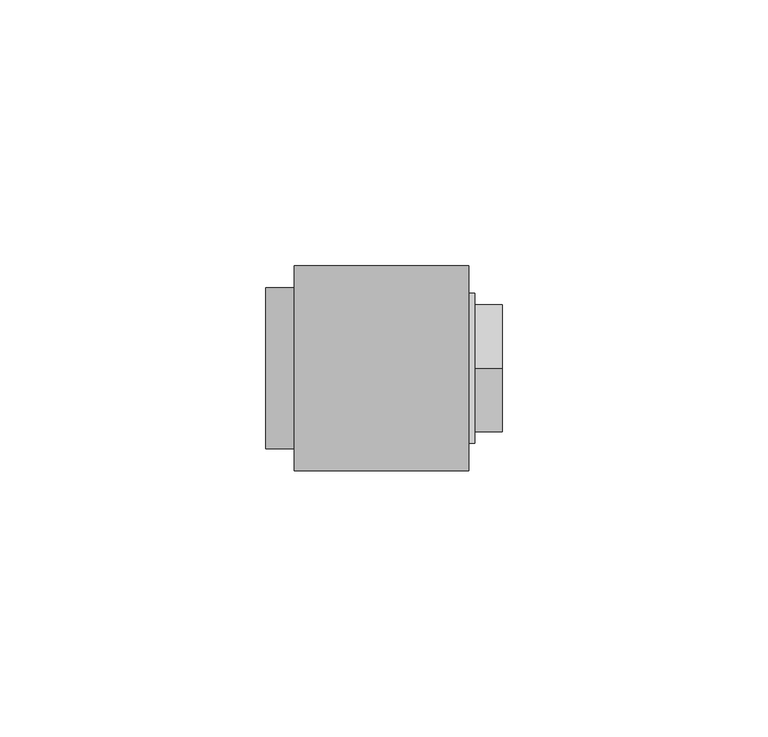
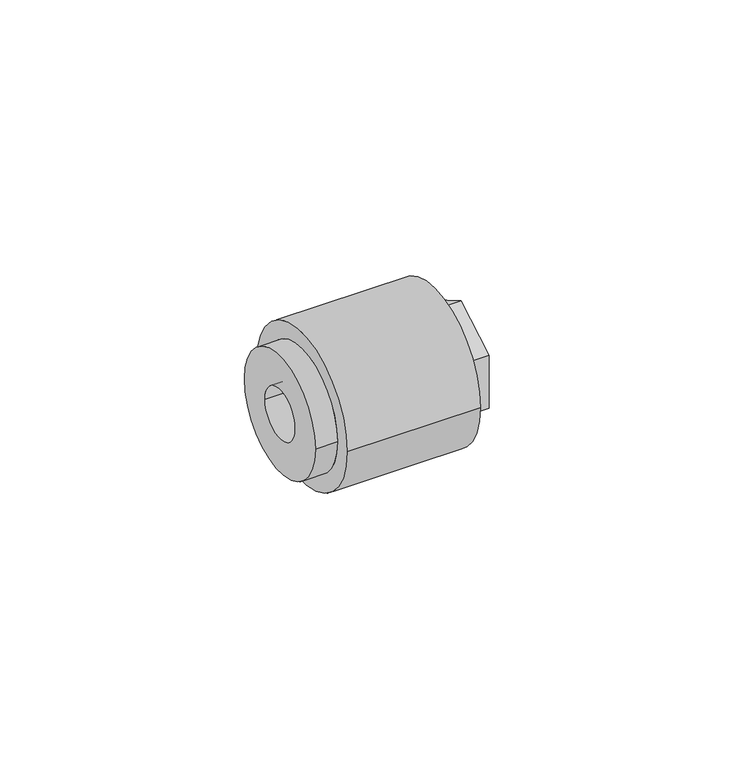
"""IFC4 building model written with IfcOpenShell, lengths in millimetres: pipe fitting geometry, Aquatherm - Fusion Outlet Transition Female : POTABLE BRASS - HEX."""

from ifc_helpers import new_model, si_unit, frame, origin, place, context, project, spatial, polyline, circle_curve, source, transform, mapped, element, save
from ifc_brep_helpers import plane_surface, cylinder_surface, revolved_surface, advanced_brep


def pipe_fitting_25588f07(model_context):
    return source(origin(), model_context, "Body", "AdvancedBrep", [
        advanced_brep(
        [(26.416, 9.525, 0.0), (26.416, -9.525, 0.0), (36.5363125, -9.525, 0.0), (36.5363125, 9.525, 0.0), (26.416, 10.31875, 0.0), (26.416, -10.31875, 0.0), (23.241, 10.31875, 0.0), (23.241, -10.31875, 0.0), (23.241, 6.35, 0.0), (23.241, -6.35, 0.0), (20.066, 6.35, 0.0), (20.066, -6.35, 0.0), (20.066, 15.113, 0.0), (20.066, -15.113, 0.0), (32.766, 15.113, 0.0), (32.766, -15.113, 0.0), (39.116, 10.31875, 0.0), (39.116, -10.31875, 0.0), (39.116, -11.938, 0.0), (39.116, -11.938, -6.8924075), (39.116, 0.0, -13.784815), (39.116, 11.938, -6.8924075), (39.116, 11.938, 0.0), (39.116, 11.938, 6.8924075), (39.116, 0.0, 13.784815), (39.116, -11.938, 6.8924075), (32.766, 14.097, 0.0), (32.766, -14.097, 0.0), (33.956625, 14.097, 0.0), (33.956625, -14.097, 0.0), (33.956625, 0.0, -13.784815), (33.956625, -11.938, -6.8924075), (33.956625, -11.938, 6.8924075), (33.956625, 0.0, 13.784815), (33.956625, 11.938, 6.8924075), (33.956625, 11.938, -6.8924075)],
        [
            (0, 1, circle_curve(frame((26.416, 0.0, 0.0), z_axis=(-1.0, 0.0, 0.0), x_axis=(0.0, -1.0, 0.0)), 9.525)),
            (1, 2),
            (2, 3, circle_curve(frame((36.5363125, 0.0, 0.0), z_axis=(1.0, 0.0, 0.0), x_axis=(0.0, -1.0, 0.0)), 9.525)),
            (3, 0),
            (1, 0, circle_curve(frame((26.416, 0.0, 0.0), z_axis=(-1.0, 0.0, 0.0), x_axis=(0.0, -1.0, 0.0)), 9.525)),
            (3, 2, circle_curve(frame((36.5363125, 0.0, 0.0), z_axis=(1.0, 0.0, 0.0), x_axis=(0.0, -1.0, 0.0)), 9.525)),
            (0, 4),
            (4, 5, circle_curve(frame((26.416, 0.0, 0.0), z_axis=(-1.0, 0.0, 0.0), x_axis=(0.0, -1.0, 0.0)), 10.31875)),
            (5, 1),
            (5, 4, circle_curve(frame((26.416, 0.0, 0.0), z_axis=(-1.0, 0.0, 0.0), x_axis=(0.0, -1.0, 0.0)), 10.31875)),
            (4, 6),
            (6, 7, circle_curve(frame((23.241, 0.0, 0.0), z_axis=(-1.0, 0.0, 0.0), x_axis=(0.0, -1.0, 0.0)), 10.31875)),
            (7, 5),
            (7, 6, circle_curve(frame((23.241, 0.0, 0.0), z_axis=(-1.0, 0.0, 0.0), x_axis=(0.0, -1.0, 0.0)), 10.31875)),
            (6, 8),
            (8, 9, circle_curve(frame((23.241, 0.0, 0.0), z_axis=(-1.0, 0.0, 0.0), x_axis=(0.0, -1.0, 0.0)), 6.35)),
            (9, 7),
            (9, 8, circle_curve(frame((23.241, 0.0, 0.0), z_axis=(-1.0, 0.0, 0.0), x_axis=(0.0, -1.0, 0.0)), 6.35)),
            (8, 10),
            (10, 11, circle_curve(frame((20.066, 0.0, 0.0), z_axis=(-1.0, 0.0, 0.0), x_axis=(0.0, -1.0, 0.0)), 6.35)),
            (11, 9),
            (11, 10, circle_curve(frame((20.066, 0.0, 0.0), z_axis=(-1.0, 0.0, 0.0), x_axis=(0.0, -1.0, 0.0)), 6.35)),
            (10, 12),
            (12, 13, circle_curve(frame((20.066, 0.0, 0.0), z_axis=(-1.0, 0.0, 0.0), x_axis=(0.0, -1.0, 0.0)), 15.113)),
            (13, 11),
            (13, 12, circle_curve(frame((20.066, 0.0, 0.0), z_axis=(-1.0, 0.0, 0.0), x_axis=(0.0, -1.0, 0.0)), 15.113)),
            (12, 14),
            (14, 15, circle_curve(frame((32.766, 0.0, 0.0), z_axis=(-1.0, 0.0, 0.0), x_axis=(0.0, -1.0, 0.0)), 15.113)),
            (15, 13),
            (15, 14, circle_curve(frame((32.766, 0.0, 0.0), z_axis=(-1.0, 0.0, 0.0), x_axis=(0.0, -1.0, 0.0)), 15.113)),
            (16, 17, circle_curve(frame((39.116, 0.0, 0.0), z_axis=(-1.0, 0.0, 0.0), x_axis=(0.0, -1.0, 0.0)), 10.31875)),
            (17, 18),
            (18, 19),
            (19, 20),
            (20, 21),
            (21, 22),
            (22, 16),
            (17, 16, circle_curve(frame((39.116, 0.0, 0.0), z_axis=(-1.0, 0.0, 0.0), x_axis=(0.0, -1.0, 0.0)), 10.31875)),
            (22, 23),
            (23, 24),
            (24, 25),
            (25, 18),
            (2, 17),
            (16, 3),
            (14, 26),
            (26, 27, circle_curve(frame((32.766, 0.0, 0.0), z_axis=(-1.0, 0.0, 0.0), x_axis=(0.0, -1.0, 0.0)), 14.097)),
            (27, 15),
            (27, 26, circle_curve(frame((32.766, 0.0, 0.0), z_axis=(-1.0, 0.0, 0.0), x_axis=(0.0, -1.0, 0.0)), 14.097)),
            (26, 28),
            (28, 29, circle_curve(frame((33.956625, 0.0, 0.0), z_axis=(-1.0, 0.0, 0.0), x_axis=(0.0, -1.0, 0.0)), 14.097)),
            (29, 27),
            (29, 28, circle_curve(frame((33.956625, 0.0, 0.0), z_axis=(-1.0, 0.0, 0.0), x_axis=(0.0, -1.0, 0.0)), 14.097)),
            (30, 31),
            (31, 32),
            (32, 33),
            (33, 34),
            (34, 35),
            (35, 30),
            (35, 21),
            (20, 30),
            (34, 23),
            (33, 24),
            (32, 25),
            (31, 19),
        ],
        [
            revolved_surface(polyline([(36.5363125, -9.525, 0.0), (26.416, -9.525, 0.0)]), (40.9492251, 0.0, 0.0), (1.0, 0.0, 0.0)),
            plane_surface(frame((26.416, 0.0, 0.0), z_axis=(-1.0, 0.0, 0.0), x_axis=(0.0, -1.0, 0.0))),
            revolved_surface(polyline([(26.416, -10.31875, 0.0), (23.241, -10.31875, 0.0)]), (40.9492251, 0.0, 0.0), (1.0, 0.0, 0.0)),
            plane_surface(frame((23.241, 0.0, 0.0), z_axis=(1.0, 0.0, 0.0), x_axis=(0.0, -1.0, 0.0))),
            revolved_surface(polyline([(23.241, -6.35, 0.0), (20.066, -6.35, 0.0)]), (40.9492251, 0.0, 0.0), (1.0, 0.0, 0.0)),
            plane_surface(frame((20.066, 0.0, 0.0), z_axis=(-1.0, 0.0, 0.0), x_axis=(0.0, -1.0, 0.0))),
            cylinder_surface(frame((40.9492251, 0.0, 0.0), z_axis=(1.0, 0.0, 0.0), x_axis=(0.0, -1.0, 0.0)), 15.113),
            plane_surface(frame((39.116, 0.0, 0.0), z_axis=(1.0, 0.0, 0.0), x_axis=(0.0, -1.0, 0.0))),
            revolved_surface(polyline([(39.116, -10.31875, 0.0), (36.5363125, -9.525, 0.0)]), (40.9492251, 0.0, 0.0), (1.0, 0.0, 0.0)),
            plane_surface(frame((32.766, 0.0, 0.0), z_axis=(1.0, 0.0, 0.0), x_axis=(0.0, -1.0, 0.0))),
            cylinder_surface(frame((40.9492251, 0.0, 0.0), z_axis=(1.0, 0.0, 0.0), x_axis=(0.0, -1.0, 0.0)), 14.097),
            plane_surface(frame((33.956625, 11.938, -6.8924075), z_axis=(1.0, 0.0, 0.0), x_axis=(0.0, 0.8660254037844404, 0.49999999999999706))),
            plane_surface(frame((33.956625, 0.0, -13.784815), z_axis=(0.0, 0.49999999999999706, -0.8660254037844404), x_axis=(1.0, 0.0, 0.0))),
            plane_surface(frame((33.956625, 11.938, -6.8924075), z_axis=(0.0, 1.0, 0.0), x_axis=(1.0, 0.0, 0.0))),
            plane_surface(frame((33.956625, 11.938, 6.8924075), z_axis=(0.0, 0.5000000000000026, 0.8660254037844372), x_axis=(1.0, 0.0, 0.0))),
            plane_surface(frame((33.956625, 0.0, 13.784815), z_axis=(0.0, -0.4999999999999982, 0.8660254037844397), x_axis=(1.0, 0.0, 0.0))),
            plane_surface(frame((33.956625, -11.938, 6.8924075), z_axis=(0.0, -1.0, 0.0), x_axis=(1.0, 0.0, 0.0))),
            plane_surface(frame((33.956625, -11.938, -6.8924075), z_axis=(0.0, -0.5000000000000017, -0.8660254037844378), x_axis=(1.0, 0.0, 0.0))),
        ],
        [
            (0, [[1, 2, 3, 4]]),
            (0, [[-2, 5, -4, 6]]),
            (1, [[-1, 7, 8, 9]]),
            (1, [[-5, -9, 10, -7]]),
            (2, [[-8, 11, 12, 13]]),
            (2, [[-10, -13, 14, -11]]),
            (3, [[-12, 15, 16, 17]]),
            (3, [[-14, -17, 18, -15]]),
            (4, [[-16, 19, 20, 21]]),
            (4, [[-18, -21, 22, -19]]),
            (5, [[-20, 23, 24, 25]]),
            (5, [[-22, -25, 26, -23]]),
            (6, [[-24, 27, 28, 29]]),
            (6, [[-26, -29, 30, -27]]),
            (7, [[31, 32, 33, 34, 35, 36, 37]]),
            (7, [[38, -37, 39, 40, 41, 42, -32]]),
            (8, [[-3, 43, -31, 44]]),
            (8, [[-6, -44, -38, -43]]),
            (9, [[-28, 45, 46, 47]]),
            (9, [[-30, -47, 48, -45]]),
            (10, [[-46, 49, 50, 51]]),
            (10, [[-48, -51, 52, -49]]),
            (11, [[-50, -52], [53, 54, 55, 56, 57, 58]]),
            (12, [[-58, 59, -35, 60]]),
            (13, [[-57, 61, -39, -36, -59]]),
            (14, [[-56, 62, -40, -61]]),
            (15, [[-55, 63, -41, -62]]),
            (16, [[-54, 64, -33, -42, -63]]),
            (17, [[-53, -60, -34, -64]]),
        ],
    ),
        advanced_brep(
        [(-5.4232432, 15.113, 0.0), (-5.4232432, -15.113, 0.0), (-5.4232432, 6.35, 0.0), (-5.4232432, -6.35, 0.0), (20.066, 15.113, 0.0), (20.066, -15.113, 0.0), (20.066, 6.35, 0.0), (20.066, -6.35, 0.0), (0.0, 15.113, 0.0), (0.0, -15.113, 0.0), (32.766, 19.304, 0.0), (32.766, -19.304, 0.0), (32.766, 15.113, 0.0), (32.766, -15.113, 0.0), (0.0, 19.304, 0.0), (0.0, -19.304, 0.0)],
        [
            (0, 1, circle_curve(frame((-5.4232432, 0.0, 0.0), z_axis=(-1.0, 0.0, 0.0), x_axis=(0.0, -1.0, 0.0)), 15.113)),
            (1, 0, circle_curve(frame((-5.4232432, 0.0, 0.0), z_axis=(-1.0, 0.0, 0.0), x_axis=(0.0, -1.0, 0.0)), 15.113)),
            (2, 3, circle_curve(frame((-5.4232432, 0.0, 0.0), z_axis=(1.0, 0.0, 0.0), x_axis=(0.0, -1.0, 0.0)), 6.35)),
            (3, 2, circle_curve(frame((-5.4232432, 0.0, 0.0), z_axis=(1.0, 0.0, 0.0), x_axis=(0.0, -1.0, 0.0)), 6.35)),
            (4, 5, circle_curve(frame((20.066, 0.0, 0.0), z_axis=(1.0, 0.0, 0.0), x_axis=(0.0, -1.0, 0.0)), 15.113)),
            (5, 4, circle_curve(frame((20.066, 0.0, 0.0), z_axis=(1.0, 0.0, 0.0), x_axis=(0.0, -1.0, 0.0)), 15.113)),
            (6, 7, circle_curve(frame((20.066, 0.0, 0.0), z_axis=(-1.0, 0.0, 0.0), x_axis=(0.0, -1.0, 0.0)), 6.35)),
            (7, 6, circle_curve(frame((20.066, 0.0, 0.0), z_axis=(-1.0, 0.0, 0.0), x_axis=(0.0, -1.0, 0.0)), 6.35)),
            (2, 6),
            (7, 3),
            (0, 8),
            (8, 9, circle_curve(frame((0.0, 0.0, 0.0), z_axis=(-1.0, 0.0, 0.0), x_axis=(0.0, -1.0, 0.0)), 15.113)),
            (9, 1),
            (9, 8, circle_curve(frame((0.0, 0.0, 0.0), z_axis=(-1.0, 0.0, 0.0), x_axis=(0.0, -1.0, 0.0)), 15.113)),
            (10, 11, circle_curve(frame((32.766, 0.0, 0.0), z_axis=(1.0, 0.0, 0.0), x_axis=(0.0, -1.0, 0.0)), 19.304)),
            (11, 10, circle_curve(frame((32.766, 0.0, 0.0), z_axis=(1.0, 0.0, 0.0), x_axis=(0.0, -1.0, 0.0)), 19.304)),
            (12, 13, circle_curve(frame((32.766, 0.0, 0.0), z_axis=(-1.0, 0.0, 0.0), x_axis=(0.0, -1.0, 0.0)), 15.113)),
            (13, 12, circle_curve(frame((32.766, 0.0, 0.0), z_axis=(-1.0, 0.0, 0.0), x_axis=(0.0, -1.0, 0.0)), 15.113)),
            (14, 15, circle_curve(frame((0.0, 0.0, 0.0), z_axis=(-1.0, 0.0, 0.0), x_axis=(0.0, -1.0, 0.0)), 19.304)),
            (15, 14, circle_curve(frame((0.0, 0.0, 0.0), z_axis=(-1.0, 0.0, 0.0), x_axis=(0.0, -1.0, 0.0)), 19.304)),
            (13, 5),
            (4, 12),
            (11, 15),
            (14, 10),
        ],
        [
            plane_surface(frame((-5.4232432, -6.35, 0.0), z_axis=(-1.0, 0.0, 0.0), x_axis=(0.0, 0.0, -1.0))),
            plane_surface(frame((20.066, -6.35, 0.0), z_axis=(1.0, 0.0, 0.0), x_axis=(0.0, 0.0, 1.0))),
            revolved_surface(polyline([(20.066, -6.35, 0.0), (-5.423243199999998, -6.35, 0.0)]), (20.066, 0.0, 0.0), (1.0, 0.0, 0.0)),
            cylinder_surface(frame((0.0, 0.0, 0.0), z_axis=(-1.0, 0.0, 0.0), x_axis=(0.0, -1.0, 0.0)), 15.113),
            plane_surface(frame((32.766, -15.113, 0.0), z_axis=(1.0, 0.0, 0.0), x_axis=(0.0, 0.0, 1.0))),
            plane_surface(frame((0.0, -15.113, 0.0), z_axis=(-1.0, 0.0, 0.0), x_axis=(0.0, 0.0, -1.0))),
            revolved_surface(polyline([(32.766, -15.113, 0.0), (20.066, -15.113, 0.0)]), (32.766, 0.0, 0.0), (1.0, 0.0, 0.0)),
            cylinder_surface(frame((0.0, 0.0, 0.0), z_axis=(-1.0, 0.0, 0.0), x_axis=(0.0, -1.0, 0.0)), 19.304),
        ],
        [
            (0, [[1, 2], [3, 4]]),
            (1, [[5, 6], [7, 8]]),
            (2, [[-3, 9, -8, 10]]),
            (2, [[-4, -10, -7, -9]]),
            (3, [[-1, 11, 12, 13]]),
            (3, [[-2, -13, 14, -11]]),
            (4, [[15, 16], [17, 18]]),
            (5, [[19, 20], [-12, -14]]),
            (6, [[-18, 21, -5, 22]]),
            (6, [[-17, -22, -6, -21]]),
            (7, [[-16, 23, -19, 24]]),
            (7, [[-15, -24, -20, -23]]),
        ],
    ),
    ])


if __name__ == "__main__":
    model = new_model("IFC4")
    model_context = context("Model", 3, world=origin())
    ifc_project = project(units=[si_unit("LENGTHUNIT", "METRE", prefix="MILLI")], contexts=[model_context])
    site = spatial("IfcSite", under=ifc_project)
    building = spatial("IfcBuilding", under=site)
    placement = place(None, origin())
    pipe_fitting_shape = pipe_fitting_25588f07(model_context)
    element("IfcPipeFitting", 1, ObjectType="Aquatherm - Fusion Outlet Transition Female : POTABLE BRASS - HEX", at=placement, inside=building, context=model_context, shape_type="MappedRepresentation", body=[
        mapped(pipe_fitting_shape, transform((0.0, 0.0, 0.0), x_axis=(1.0, 0.0, 0.0), y_axis=(0.0, 1.0, 0.0), z_axis=(0.0, 0.0, 1.0))),
    ])
    save(model, "model.ifc")
